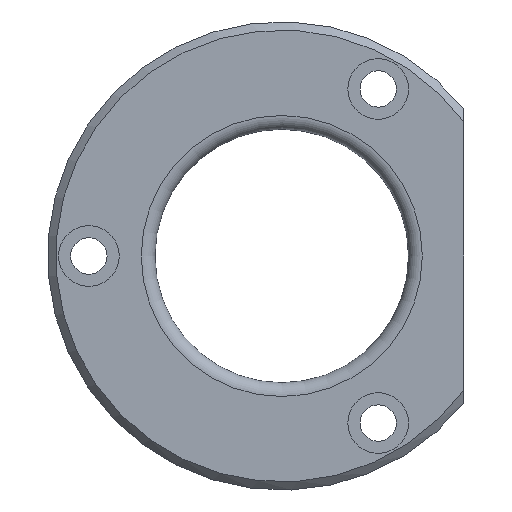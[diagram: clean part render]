
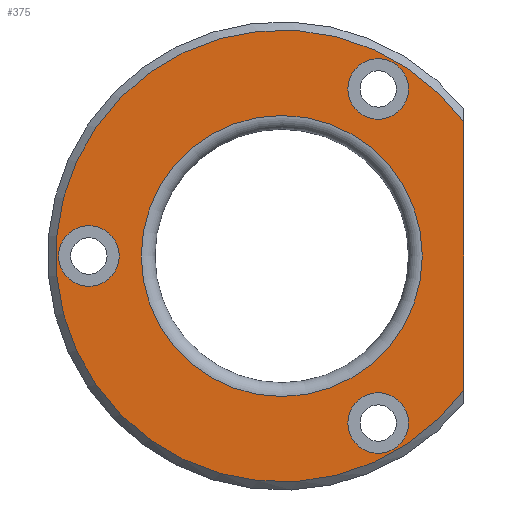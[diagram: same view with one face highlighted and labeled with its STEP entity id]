
A CAD part, left-side view. The second image highlights one B-rep face of the part: STEP entity #375.
In plain terms, the highlighted planar face has unit normal (-1, 0, 0).
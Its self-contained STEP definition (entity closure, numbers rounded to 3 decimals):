
#21=FACE_BOUND('',#104,.T.);
#22=FACE_BOUND('',#105,.T.);
#23=FACE_BOUND('',#106,.T.);
#24=FACE_BOUND('',#107,.T.);
#33=PLANE('',#424);
#41=LINE('',#613,#55);
#55=VECTOR('',#493,10.);
#80=FACE_OUTER_BOUND('',#103,.T.);
#103=EDGE_LOOP('',(#259,#260));
#104=EDGE_LOOP('',(#261));
#105=EDGE_LOOP('',(#262));
#106=EDGE_LOOP('',(#263));
#107=EDGE_LOOP('',(#264));
#136=CIRCLE('',#417,25.5);
#142=CIRCLE('',#425,41.);
#143=CIRCLE('',#426,5.5);
#144=CIRCLE('',#427,5.5);
#145=CIRCLE('',#428,5.5);
#167=VERTEX_POINT('',#596);
#172=VERTEX_POINT('',#610);
#173=VERTEX_POINT('',#611);
#174=VERTEX_POINT('',#614);
#175=VERTEX_POINT('',#616);
#176=VERTEX_POINT('',#618);
#199=EDGE_CURVE('',#167,#167,#136,.T.);
#206=EDGE_CURVE('',#172,#173,#142,.T.);
#207=EDGE_CURVE('',#172,#173,#41,.T.);
#208=EDGE_CURVE('',#174,#174,#143,.T.);
#209=EDGE_CURVE('',#175,#175,#144,.T.);
#210=EDGE_CURVE('',#176,#176,#145,.T.);
#259=ORIENTED_EDGE('',*,*,#206,.F.);
#260=ORIENTED_EDGE('',*,*,#207,.T.);
#261=ORIENTED_EDGE('',*,*,#208,.T.);
#262=ORIENTED_EDGE('',*,*,#209,.T.);
#263=ORIENTED_EDGE('',*,*,#210,.T.);
#264=ORIENTED_EDGE('',*,*,#199,.F.);
#375=ADVANCED_FACE('',(#80,#21,#22,#23,#24),#33,.T.);
#417=AXIS2_PLACEMENT_3D('',#597,#474,#475);
#424=AXIS2_PLACEMENT_3D('',#609,#489,#490);
#425=AXIS2_PLACEMENT_3D('',#612,#491,#492);
#426=AXIS2_PLACEMENT_3D('',#615,#494,#495);
#427=AXIS2_PLACEMENT_3D('',#617,#496,#497);
#428=AXIS2_PLACEMENT_3D('',#619,#498,#499);
#474=DIRECTION('center_axis',(-1.,0.,0.));
#475=DIRECTION('ref_axis',(0.,-1.,0.));
#489=DIRECTION('center_axis',(-1.,0.,0.));
#490=DIRECTION('ref_axis',(0.,0.,1.));
#491=DIRECTION('center_axis',(1.,0.,0.));
#492=DIRECTION('ref_axis',(0.,1.,0.));
#493=DIRECTION('',(0.,0.,1.));
#494=DIRECTION('center_axis',(1.,0.,0.));
#495=DIRECTION('ref_axis',(0.,0.,1.));
#496=DIRECTION('center_axis',(1.,0.,0.));
#497=DIRECTION('ref_axis',(0.,0.,1.));
#498=DIRECTION('center_axis',(1.,0.,0.));
#499=DIRECTION('ref_axis',(0.,0.,1.));
#596=CARTESIAN_POINT('',(0.,0.,25.5));
#597=CARTESIAN_POINT('Origin',(0.,0.,0.));
#609=CARTESIAN_POINT('Origin',(0.,42.5,0.));
#610=CARTESIAN_POINT('',(0.,-33.,-24.331));
#611=CARTESIAN_POINT('',(0.,-33.,24.331));
#612=CARTESIAN_POINT('Origin',(0.,0.,0.));
#613=CARTESIAN_POINT('',(0.,-33.,0.));
#614=CARTESIAN_POINT('',(0.,35.,-5.5));
#615=CARTESIAN_POINT('Origin',(0.,35.,0.));
#616=CARTESIAN_POINT('',(0.,-17.5,-35.811));
#617=CARTESIAN_POINT('Origin',(0.,-17.5,-30.311));
#618=CARTESIAN_POINT('',(0.,-17.5,24.811));
#619=CARTESIAN_POINT('Origin',(0.,-17.5,30.311));
